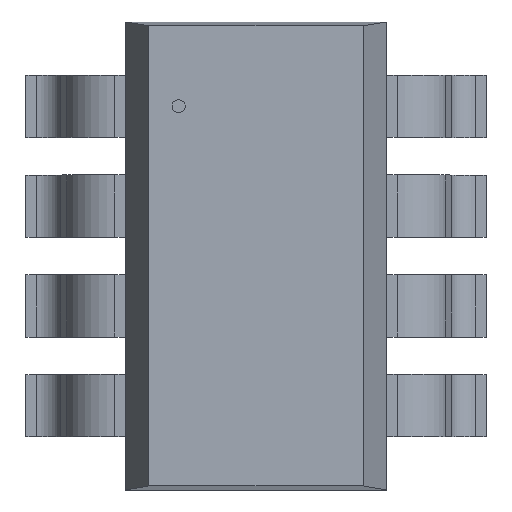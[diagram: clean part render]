
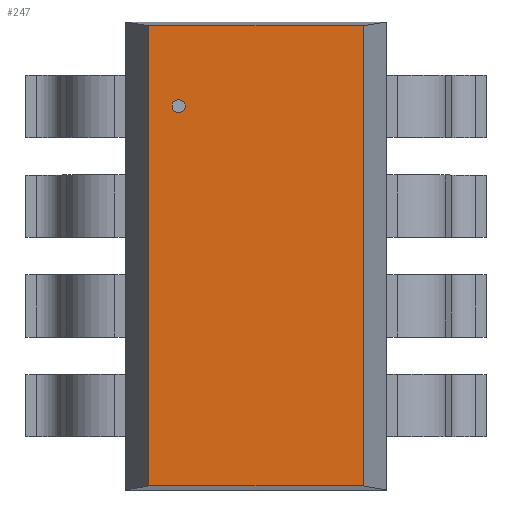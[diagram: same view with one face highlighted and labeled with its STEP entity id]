
A CAD part, top view. The second image highlights one B-rep face of the part: STEP entity #247.
In plain terms, the highlighted planar face has unit normal (0, 0, 1).
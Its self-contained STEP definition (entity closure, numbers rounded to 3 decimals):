
#247=ADVANCED_FACE('',(#253),#248,.T.);
#248=PLANE('',#249);
#249=AXIS2_PLACEMENT_3D('',#250,#251,#252);
#250=CARTESIAN_POINT('',(-0.698,-1.499,1.092));
#251=DIRECTION('',(0.0,0.0,1.0));
#252=DIRECTION('',(0.,1.,0.));
#253=FACE_OUTER_BOUND('',#254,.T.);
#254=EDGE_LOOP('',(#255,#265,#275,#285));
#258=CARTESIAN_POINT('',(0.698,-1.499,1.092));
#257=VERTEX_POINT('',#258);
#260=CARTESIAN_POINT('',(-0.698,-1.499,1.092));
#259=VERTEX_POINT('',#260);
#256=EDGE_CURVE('',#257,#259,#261,.T.);
#261=LINE('',#258,#263);
#263=VECTOR('',#264,1.397);
#264=DIRECTION('',(-1.0,0.0,0.0));
#255=ORIENTED_EDGE('',*,*,#256,.F.);
#268=CARTESIAN_POINT('',(0.698,1.499,1.092));
#267=VERTEX_POINT('',#268);
#266=EDGE_CURVE('',#267,#257,#271,.T.);
#271=LINE('',#268,#273);
#273=VECTOR('',#274,2.997);
#274=DIRECTION('',(0.0,-1.0,0.0));
#265=ORIENTED_EDGE('',*,*,#266,.F.);
#278=CARTESIAN_POINT('',(-0.698,1.499,1.092));
#277=VERTEX_POINT('',#278);
#276=EDGE_CURVE('',#277,#267,#281,.T.);
#281=LINE('',#278,#283);
#283=VECTOR('',#284,1.397);
#284=DIRECTION('',(1.0,0.0,0.0));
#275=ORIENTED_EDGE('',*,*,#276,.F.);
#286=EDGE_CURVE('',#259,#277,#291,.T.);
#291=LINE('',#260,#293);
#293=VECTOR('',#294,2.997);
#294=DIRECTION('',(0.0,1.0,0.0));
#285=ORIENTED_EDGE('',*,*,#286,.F.);
